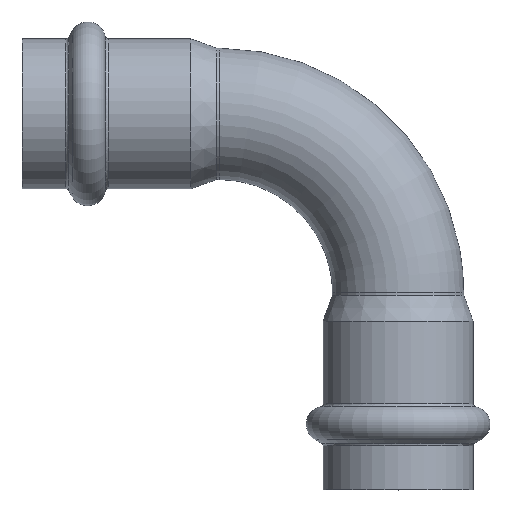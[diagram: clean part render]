
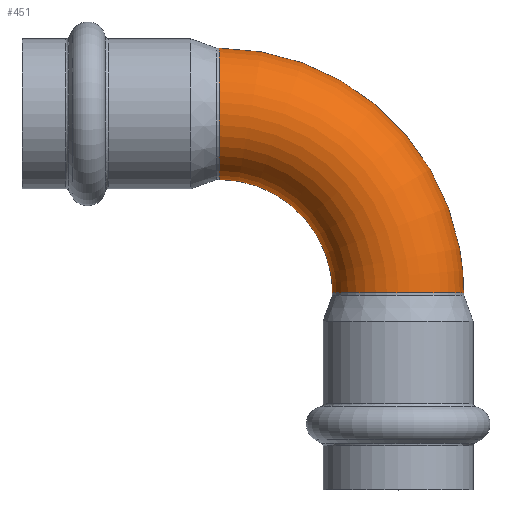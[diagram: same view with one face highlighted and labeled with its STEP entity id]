
A CAD part, top view. The second image highlights one B-rep face of the part: STEP entity #451.
In plain terms, the highlighted toroidal (fillet/blend) face has major radius 30 mm and minor radius 11 mm.
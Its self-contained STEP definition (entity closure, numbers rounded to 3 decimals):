
#424=CARTESIAN_POINT('',(-7.5,-30.,0.0));
#425=DIRECTION('',(0.0,0.0,-1.0));
#426=DIRECTION('',(-1.0,0.0,0.0));
#427=AXIS2_PLACEMENT_3D('',#424,#425,#426);
#428=TOROIDAL_SURFACE('',#427,30.,11.);
#429=CARTESIAN_POINT('',(22.5,-30.,11.));
#430=VERTEX_POINT('',#429);
#431=CARTESIAN_POINT('',(22.5,-30.,0.0));
#432=DIRECTION('',(0.0,-1.0,0.0));
#433=DIRECTION('',(1.0,0.0,0.0));
#434=AXIS2_PLACEMENT_3D('',#431,#432,#433);
#435=CIRCLE('',#434,11.);
#436=EDGE_CURVE('',#430,#430,#435,.T.);
#437=ORIENTED_EDGE('',*,*,#436,.F.);
#438=EDGE_LOOP('',(#437));
#439=FACE_OUTER_BOUND('',#438,.T.);
#440=CARTESIAN_POINT('',(-7.5,11.,0.0));
#441=VERTEX_POINT('',#440);
#442=CARTESIAN_POINT('',(-7.5,0.,0.0));
#443=DIRECTION('',(1.0,0.0,0.0));
#444=DIRECTION('',(0.0,1.0,0.0));
#445=AXIS2_PLACEMENT_3D('',#442,#443,#444);
#446=CIRCLE('',#445,11.);
#447=EDGE_CURVE('',#441,#441,#446,.T.);
#448=ORIENTED_EDGE('',*,*,#447,.T.);
#449=EDGE_LOOP('',(#448));
#450=FACE_BOUND('',#449,.T.);
#451=ADVANCED_FACE('',(#439,#450),#428,.T.);
